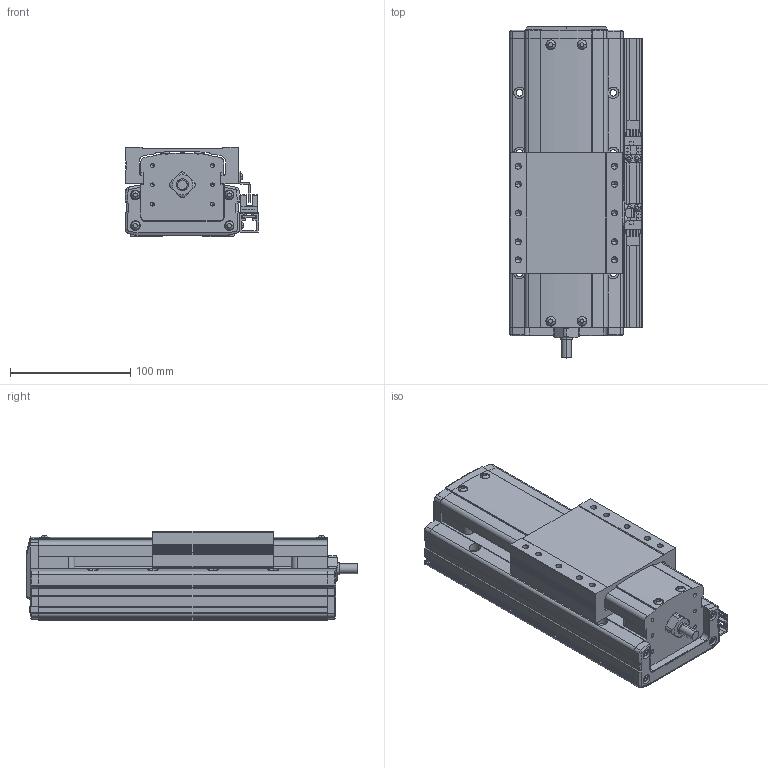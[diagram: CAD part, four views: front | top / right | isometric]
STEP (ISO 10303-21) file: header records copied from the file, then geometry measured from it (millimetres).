
FILE_DESCRIPTION(('STEP AP214'),'1');
FILE_NAME('Z:/Web/3D/PSA95/STP/PSA95-050 (3D)/PSA95ㅁㅁ-050S+2SR.stp','2014-07-02T23:27:03',(' '),(' '),'Spatial InterOp 3D',' ',' ');
FILE_SCHEMA(('automotive_design'));
Length unit declared in the file: millimetre
Products named in the file (32): BASE; RRCV; 스크루 : Round - M4.0 x 10.0; 너트 : Square - M10.0 x 220.7419; RR1500; FRCV-090; 스크루 : Round - M4.0 x 6.0; SLBL-PA90; EE-SX674; SBK-SX674-352; 스크루 : Round - M3.0 x 6.0; M3.0 x 6.0; SRL-16x17-380L; SGD-PA95; 스크루 : Round - M3.0 x 8.0
Bounding box: 111 x 276 x 74 mm (x, y, z)
Volume: 1475660.6 mm3; surface area: 220115.6 mm2
Topology: 32 solids, 32 shells, 2013 faces, 5412 edges, 3513 vertices
Faces by surface type: plane 1261, cylinder 529, cone 139, sphere 46, bspline 24, torus 14
Entity records: 81681 total; most frequent: CARTESIAN_POINT 13923, ORIENTED_EDGE 10700, DIRECTION 10646, EDGE_CURVE 5350, LINE 3802, VECTOR 3802, VERTEX_POINT 3513, AXIS2_PLACEMENT_3D 3422
